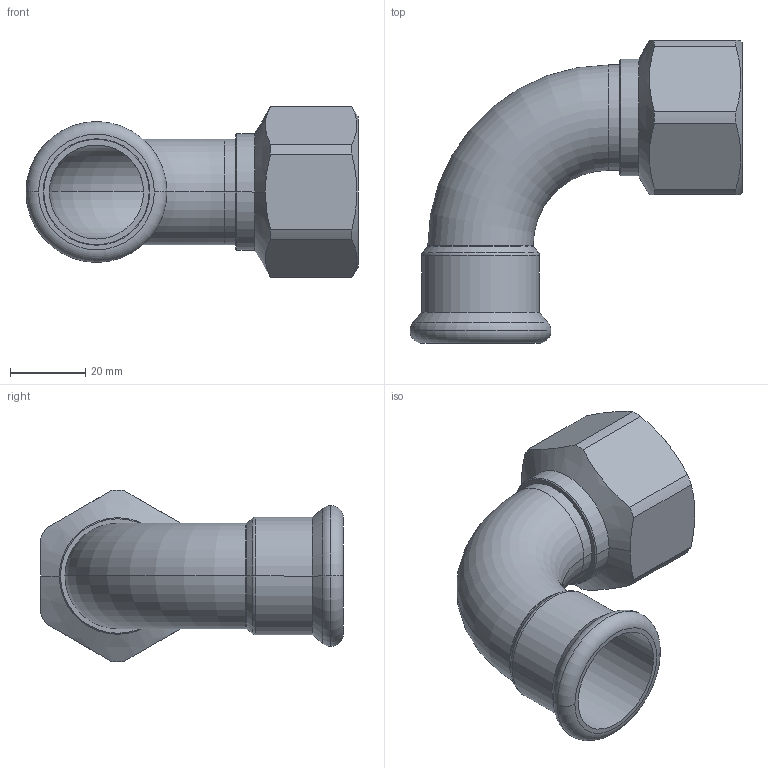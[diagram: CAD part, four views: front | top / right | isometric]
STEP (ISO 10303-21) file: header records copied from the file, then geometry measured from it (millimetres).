
FILE_DESCRIPTION(('CoCreate Modeling STEP Export'),'2;1');
FILE_NAME('C1438 28xRp1.stp','2014-11-12T16:36:39',(''),(''),'CoCreate Modeling STEP processor for AP214 (Solid Model)','CoCreate Modeling 17.00A 17-Jun-2010 (C) Parametric Technology GmbH','');
FILE_SCHEMA(('AUTOMOTIVE_DESIGN { 1 0 10303 214 1 1 1 1 }'));
Length unit declared in the file: millimetre
Products named in the file (2): C1438_28xRp1
Assembly tree (1 placements, depth 2):
  C1438_28xRp1
    C1438_28xRp1
Bounding box: 88.22 x 80.5 x 45.69 mm (x, y, z)
Volume: 33341.9 mm3; surface area: 23427.5 mm2
Topology: 1 solids, 1 shells, 62 faces, 140 edges, 84 vertices
Faces by surface type: cylinder 26, cone 14, plane 12, torus 10
Entity records: 2364 total; most frequent: CARTESIAN_POINT 1141, ORIENTED_EDGE 280, DIRECTION 200, EDGE_CURVE 140, VERTEX_POINT 84, AXIS2_PLACEMENT_3D 77, EDGE_LOOP 68, FACE_OUTER_BOUND 62
